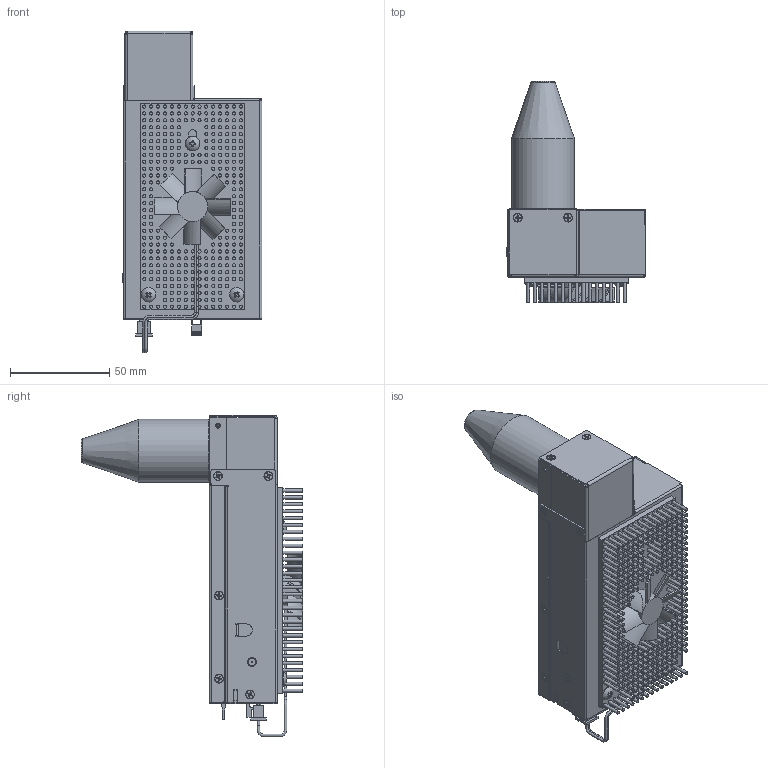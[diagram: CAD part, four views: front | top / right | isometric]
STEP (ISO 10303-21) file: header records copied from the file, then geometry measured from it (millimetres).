
FILE_DESCRIPTION (( 'STEP AP214' ), '1' );
FILE_NAME ('TUB00157-90 DEGREE.STEP', '2025-01-24T20:28:16', ( '' ), ( '' ), 'SwSTEP 2.0', 'SolidWorks 2023', '' );
FILE_SCHEMA (( 'AUTOMOTIVE_DESIGN' ));
Length unit declared in the file: inch
Products named in the file (1): TUB00157-90 DEGREE
Bounding box: 70.51 x 111.53 x 162.13 mm (x, y, z)
Volume: 286521.6 mm3; surface area: 88117 mm2
Topology: 1 solids, 31 shells, 2897 faces, 6992 edges, 4539 vertices
Faces by surface type: plane 1883, cylinder 707, cone 247, bspline 51, torus 6, sphere 3
Full cylindrical faces by diameter (mm): 1.6 x314, 1.694 x4, 1.778 x8, 1.846 x12, 1.9 x1, 2.05 x11, 2.184 x6, 2.387 x6, 2.819 x1, 3.429 x2, 3.454 x8, 3.87 x8, 3.962 x2, 4.083 x8, 4.19 x13, 4.216 x6, 5.461 x2, 5.588 x4, 6.35 x6, 7.34 x3, 9.652 x1, 11.43 x1, 15.24 x1, 27.94 x1, 31.75 x1
Entity records: 101705 total; most frequent: CARTESIAN_POINT 38135, DIRECTION 12664, ORIENTED_EDGE 12356, EDGE_CURVE 6178, AXIS2_PLACEMENT_3D 4470, VERTEX_POINT 4289, EDGE_LOOP 4017, LINE 3724
